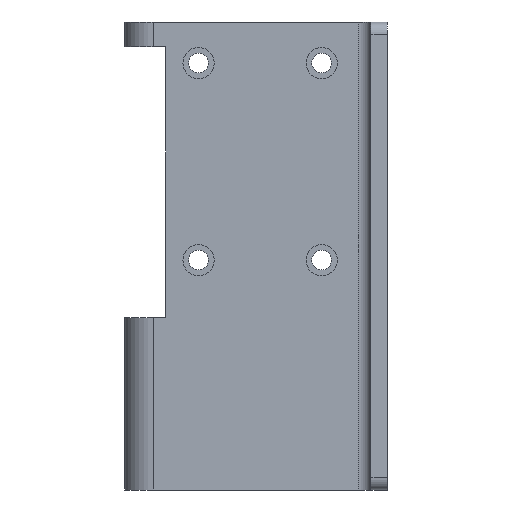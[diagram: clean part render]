
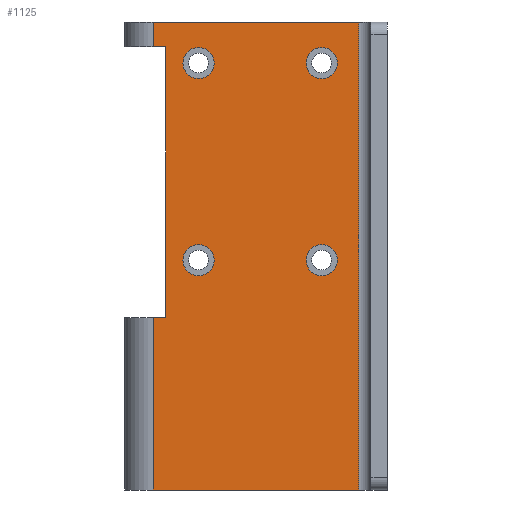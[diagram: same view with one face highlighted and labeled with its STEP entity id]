
A CAD part, front view. The second image highlights one B-rep face of the part: STEP entity #1125.
In plain terms, the highlighted planar face has unit normal (0, -1, 0).
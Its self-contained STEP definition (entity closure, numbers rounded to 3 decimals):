
#141=CARTESIAN_POINT('',(25.3,1.65,17.));
#142=VERTEX_POINT('',#141);
#151=CARTESIAN_POINT('',(21.5,1.65,17.));
#152=VERTEX_POINT('',#151);
#153=CARTESIAN_POINT('',(23.4,1.65,17.));
#154=DIRECTION('',(0.0,1.0,0.0));
#155=DIRECTION('',(1.0,0.0,0.0));
#156=AXIS2_PLACEMENT_3D('',#153,#154,#155);
#157=CIRCLE('',#156,1.9);
#158=EDGE_CURVE('',#152,#142,#157,.T.);
#225=CARTESIAN_POINT('',(25.3,1.65,-7.));
#226=VERTEX_POINT('',#225);
#235=CARTESIAN_POINT('',(21.5,1.65,-7.));
#236=VERTEX_POINT('',#235);
#237=CARTESIAN_POINT('',(23.4,1.65,-7.));
#238=DIRECTION('',(0.0,1.0,0.0));
#239=DIRECTION('',(1.0,0.0,0.0));
#240=AXIS2_PLACEMENT_3D('',#237,#238,#239);
#241=CIRCLE('',#240,1.9);
#242=EDGE_CURVE('',#236,#226,#241,.T.);
#309=CARTESIAN_POINT('',(10.3,1.65,17.));
#310=VERTEX_POINT('',#309);
#319=CARTESIAN_POINT('',(6.5,1.65,17.));
#320=VERTEX_POINT('',#319);
#321=CARTESIAN_POINT('',(8.4,1.65,17.));
#322=DIRECTION('',(0.0,1.0,0.0));
#323=DIRECTION('',(1.0,0.0,0.0));
#324=AXIS2_PLACEMENT_3D('',#321,#322,#323);
#325=CIRCLE('',#324,1.9);
#326=EDGE_CURVE('',#320,#310,#325,.T.);
#351=CARTESIAN_POINT('',(10.3,1.65,-7.0));
#352=VERTEX_POINT('',#351);
#361=CARTESIAN_POINT('',(6.5,1.65,-7.0));
#362=VERTEX_POINT('',#361);
#363=CARTESIAN_POINT('',(8.4,1.65,-7.0));
#364=DIRECTION('',(0.0,1.0,0.0));
#365=DIRECTION('',(1.0,0.0,0.0));
#366=AXIS2_PLACEMENT_3D('',#363,#364,#365);
#367=CIRCLE('',#366,1.9);
#368=EDGE_CURVE('',#362,#352,#367,.T.);
#718=CARTESIAN_POINT('',(2.9,1.65,22.0));
#719=VERTEX_POINT('',#718);
#727=CARTESIAN_POINT('',(27.9,1.65,22.0));
#728=VERTEX_POINT('',#727);
#729=CARTESIAN_POINT('',(27.9,1.65,22.0));
#730=DIRECTION('',(-1.0,0.0,0.0));
#731=VECTOR('',#730,25.0);
#732=LINE('',#729,#731);
#733=EDGE_CURVE('',#728,#719,#732,.T.);
#930=CARTESIAN_POINT('',(2.9,1.65,-14.0));
#931=VERTEX_POINT('',#930);
#939=CARTESIAN_POINT('',(4.4,1.65,-14.0));
#940=VERTEX_POINT('',#939);
#941=CARTESIAN_POINT('',(4.4,1.65,-14.0));
#942=DIRECTION('',(-1.0,0.0,0.0));
#943=VECTOR('',#942,1.5);
#944=LINE('',#941,#943);
#945=EDGE_CURVE('',#940,#931,#944,.T.);
#1014=CARTESIAN_POINT('',(2.9,1.65,-35.0));
#1015=VERTEX_POINT('',#1014);
#1023=CARTESIAN_POINT('',(2.9,1.65,-35.0));
#1024=DIRECTION('',(0.0,0.0,1.0));
#1025=VECTOR('',#1024,21.0);
#1026=LINE('',#1023,#1025);
#1027=EDGE_CURVE('',#1015,#931,#1026,.T.);
#1039=CARTESIAN_POINT('',(29.4,1.65,-35.0));
#1040=DIRECTION('',(0.0,-1.0,0.0));
#1041=DIRECTION('',(0.0,0.0,-1.0));
#1042=AXIS2_PLACEMENT_3D('',#1039,#1040,#1041);
#1043=PLANE('',#1042);
#1044=ORIENTED_EDGE('',*,*,#1027,.F.);
#1045=CARTESIAN_POINT('',(27.9,1.65,-35.0));
#1046=VERTEX_POINT('',#1045);
#1047=CARTESIAN_POINT('',(2.9,1.65,-35.0));
#1048=DIRECTION('',(1.0,0.0,0.0));
#1049=VECTOR('',#1048,25.0);
#1050=LINE('',#1047,#1049);
#1051=EDGE_CURVE('',#1015,#1046,#1050,.T.);
#1052=ORIENTED_EDGE('',*,*,#1051,.T.);
#1053=CARTESIAN_POINT('',(27.9,1.65,22.0));
#1054=DIRECTION('',(0.0,0.0,-1.0));
#1055=VECTOR('',#1054,57.0);
#1056=LINE('',#1053,#1055);
#1057=EDGE_CURVE('',#728,#1046,#1056,.T.);
#1058=ORIENTED_EDGE('',*,*,#1057,.F.);
#1059=ORIENTED_EDGE('',*,*,#733,.T.);
#1060=CARTESIAN_POINT('',(2.9,1.65,19.0));
#1061=VERTEX_POINT('',#1060);
#1062=CARTESIAN_POINT('',(2.9,1.65,19.0));
#1063=DIRECTION('',(0.0,0.0,1.0));
#1064=VECTOR('',#1063,3.0);
#1065=LINE('',#1062,#1064);
#1066=EDGE_CURVE('',#1061,#719,#1065,.T.);
#1067=ORIENTED_EDGE('',*,*,#1066,.F.);
#1068=CARTESIAN_POINT('',(4.4,1.65,19.0));
#1069=VERTEX_POINT('',#1068);
#1070=CARTESIAN_POINT('',(2.9,1.65,19.0));
#1071=DIRECTION('',(1.0,0.0,0.0));
#1072=VECTOR('',#1071,1.5);
#1073=LINE('',#1070,#1072);
#1074=EDGE_CURVE('',#1061,#1069,#1073,.T.);
#1075=ORIENTED_EDGE('',*,*,#1074,.T.);
#1076=CARTESIAN_POINT('',(4.4,1.65,19.0));
#1077=DIRECTION('',(0.0,0.0,-1.0));
#1078=VECTOR('',#1077,33.0);
#1079=LINE('',#1076,#1078);
#1080=EDGE_CURVE('',#1069,#940,#1079,.T.);
#1081=ORIENTED_EDGE('',*,*,#1080,.T.);
#1082=ORIENTED_EDGE('',*,*,#945,.T.);
#1083=EDGE_LOOP('',(#1044,#1052,#1058,#1059,#1067,#1075,#1081,#1082));
#1084=FACE_OUTER_BOUND('',#1083,.T.);
#1085=CARTESIAN_POINT('',(8.4,1.65,-7.0));
#1086=DIRECTION('',(0.0,1.0,0.0));
#1087=DIRECTION('',(1.0,0.0,0.0));
#1088=AXIS2_PLACEMENT_3D('',#1085,#1086,#1087);
#1089=CIRCLE('',#1088,1.9);
#1090=EDGE_CURVE('',#352,#362,#1089,.T.);
#1091=ORIENTED_EDGE('',*,*,#1090,.T.);
#1092=ORIENTED_EDGE('',*,*,#368,.T.);
#1093=EDGE_LOOP('',(#1091,#1092));
#1094=FACE_BOUND('',#1093,.T.);
#1095=CARTESIAN_POINT('',(8.4,1.65,17.));
#1096=DIRECTION('',(0.0,1.0,0.0));
#1097=DIRECTION('',(1.0,0.0,0.0));
#1098=AXIS2_PLACEMENT_3D('',#1095,#1096,#1097);
#1099=CIRCLE('',#1098,1.9);
#1100=EDGE_CURVE('',#310,#320,#1099,.T.);
#1101=ORIENTED_EDGE('',*,*,#1100,.T.);
#1102=ORIENTED_EDGE('',*,*,#326,.T.);
#1103=EDGE_LOOP('',(#1101,#1102));
#1104=FACE_BOUND('',#1103,.T.);
#1105=CARTESIAN_POINT('',(23.4,1.65,-7.));
#1106=DIRECTION('',(0.0,1.0,0.0));
#1107=DIRECTION('',(1.0,0.0,0.0));
#1108=AXIS2_PLACEMENT_3D('',#1105,#1106,#1107);
#1109=CIRCLE('',#1108,1.9);
#1110=EDGE_CURVE('',#226,#236,#1109,.T.);
#1111=ORIENTED_EDGE('',*,*,#1110,.T.);
#1112=ORIENTED_EDGE('',*,*,#242,.T.);
#1113=EDGE_LOOP('',(#1111,#1112));
#1114=FACE_BOUND('',#1113,.T.);
#1115=CARTESIAN_POINT('',(23.4,1.65,17.));
#1116=DIRECTION('',(0.0,1.0,0.0));
#1117=DIRECTION('',(1.0,0.0,0.0));
#1118=AXIS2_PLACEMENT_3D('',#1115,#1116,#1117);
#1119=CIRCLE('',#1118,1.9);
#1120=EDGE_CURVE('',#142,#152,#1119,.T.);
#1121=ORIENTED_EDGE('',*,*,#1120,.T.);
#1122=ORIENTED_EDGE('',*,*,#158,.T.);
#1123=EDGE_LOOP('',(#1121,#1122));
#1124=FACE_BOUND('',#1123,.T.);
#1125=ADVANCED_FACE('',(#1084,#1094,#1104,#1114,#1124),#1043,.T.);
